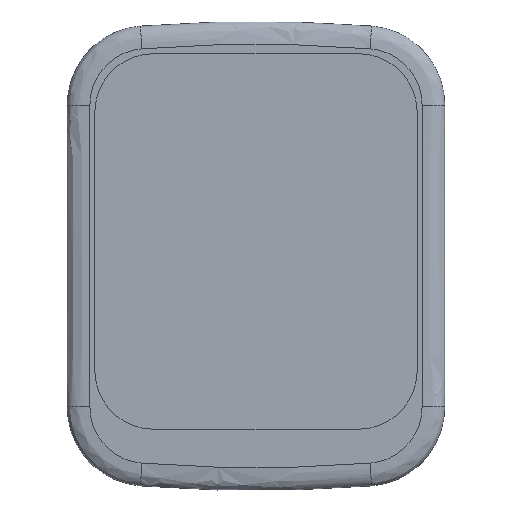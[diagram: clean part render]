
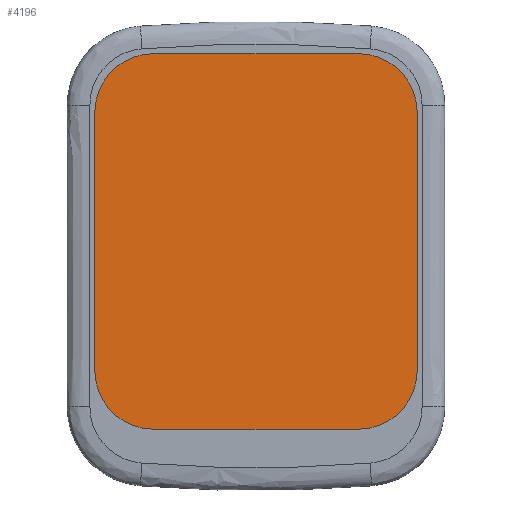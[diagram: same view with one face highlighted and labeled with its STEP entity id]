
A CAD part, top view. The second image highlights one B-rep face of the part: STEP entity #4196.
In plain terms, the highlighted planar face has unit normal (0, 0, 1).
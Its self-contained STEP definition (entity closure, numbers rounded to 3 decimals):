
#1248=DIRECTION('',(-1.,0.,0.));
#1249=VECTOR('',#1248,17.97);
#1250=CARTESIAN_POINT('',(8.985,16.465,3.75));
#1251=LINE('',#1250,#1249);
#1252=CARTESIAN_POINT('',(8.985,11.315,3.75));
#1253=DIRECTION('',(0.,0.,-1.));
#1254=DIRECTION('',(0.,1.,0.));
#1255=AXIS2_PLACEMENT_3D('',#1252,#1253,#1254);
#1257=CARTESIAN_POINT('',(8.985,-11.315,3.75));
#1258=DIRECTION('',(0.,0.,-1.));
#1259=DIRECTION('',(1.,0.,0.));
#1260=AXIS2_PLACEMENT_3D('',#1257,#1258,#1259);
#1262=CARTESIAN_POINT('',(-8.985,-11.315,3.75));
#1263=DIRECTION('',(0.,0.,-1.));
#1264=DIRECTION('',(0.,-1.,0.));
#1265=AXIS2_PLACEMENT_3D('',#1262,#1263,#1264);
#1267=CARTESIAN_POINT('',(-8.985,11.315,3.75));
#1268=DIRECTION('',(0.,0.,-1.));
#1269=DIRECTION('',(-1.,0.,0.));
#1270=AXIS2_PLACEMENT_3D('',#1267,#1268,#1269);
#1280=DIRECTION('',(0.,1.,0.));
#1281=VECTOR('',#1280,22.63);
#1282=CARTESIAN_POINT('',(14.135,-11.315,3.75));
#1283=LINE('',#1282,#1281);
#1292=DIRECTION('',(1.,0.,0.));
#1293=VECTOR('',#1292,17.97);
#1294=CARTESIAN_POINT('',(-8.985,-16.465,3.75));
#1295=LINE('',#1294,#1293);
#1304=DIRECTION('',(0.,-1.,0.));
#1305=VECTOR('',#1304,22.63);
#1306=CARTESIAN_POINT('',(-14.135,11.315,3.75));
#1307=LINE('',#1306,#1305);
#1687=CARTESIAN_POINT('',(8.985,16.465,3.75));
#1688=CARTESIAN_POINT('',(-8.985,16.465,3.75));
#1689=VERTEX_POINT('',#1687);
#1690=VERTEX_POINT('',#1688);
#1691=CARTESIAN_POINT('',(14.135,11.315,3.75));
#1692=VERTEX_POINT('',#1691);
#1693=CARTESIAN_POINT('',(14.135,-11.315,3.75));
#1694=VERTEX_POINT('',#1693);
#1695=CARTESIAN_POINT('',(8.985,-16.465,3.75));
#1696=VERTEX_POINT('',#1695);
#1697=CARTESIAN_POINT('',(-8.985,-16.465,3.75));
#1698=VERTEX_POINT('',#1697);
#1699=CARTESIAN_POINT('',(-14.135,-11.315,3.75));
#1700=VERTEX_POINT('',#1699);
#1701=CARTESIAN_POINT('',(-14.135,11.315,3.75));
#1702=VERTEX_POINT('',#1701);
#4174=CARTESIAN_POINT('',(0.,0.,3.75));
#4175=DIRECTION('',(0.,0.,-1.));
#4176=DIRECTION('',(1.,0.,0.));
#4177=AXIS2_PLACEMENT_3D('',#4174,#4175,#4176);
#4178=PLANE('',#4177);
#4179=ORIENTED_EDGE('',*,*,#4164,.F.);
#4181=ORIENTED_EDGE('',*,*,#4180,.T.);
#4183=ORIENTED_EDGE('',*,*,#4182,.F.);
#4185=ORIENTED_EDGE('',*,*,#4184,.T.);
#4187=ORIENTED_EDGE('',*,*,#4186,.F.);
#4189=ORIENTED_EDGE('',*,*,#4188,.T.);
#4191=ORIENTED_EDGE('',*,*,#4190,.F.);
#4193=ORIENTED_EDGE('',*,*,#4192,.T.);
#4194=EDGE_LOOP('',(#4179,#4181,#4183,#4185,#4187,#4189,#4191,#4193));
#4195=FACE_OUTER_BOUND('',#4194,.F.);
#4196=ADVANCED_FACE('',(#4195),#4178,.F.);
#1256=CIRCLE('',#1255,5.15);
#1261=CIRCLE('',#1260,5.15);
#1266=CIRCLE('',#1265,5.15);
#1271=CIRCLE('',#1270,5.15);
#4164=EDGE_CURVE('',#1689,#1690,#1251,.T.);
#4180=EDGE_CURVE('',#1689,#1692,#1256,.T.);
#4182=EDGE_CURVE('',#1694,#1692,#1283,.T.);
#4184=EDGE_CURVE('',#1694,#1696,#1261,.T.);
#4186=EDGE_CURVE('',#1698,#1696,#1295,.T.);
#4188=EDGE_CURVE('',#1698,#1700,#1266,.T.);
#4190=EDGE_CURVE('',#1702,#1700,#1307,.T.);
#4192=EDGE_CURVE('',#1702,#1690,#1271,.T.);
